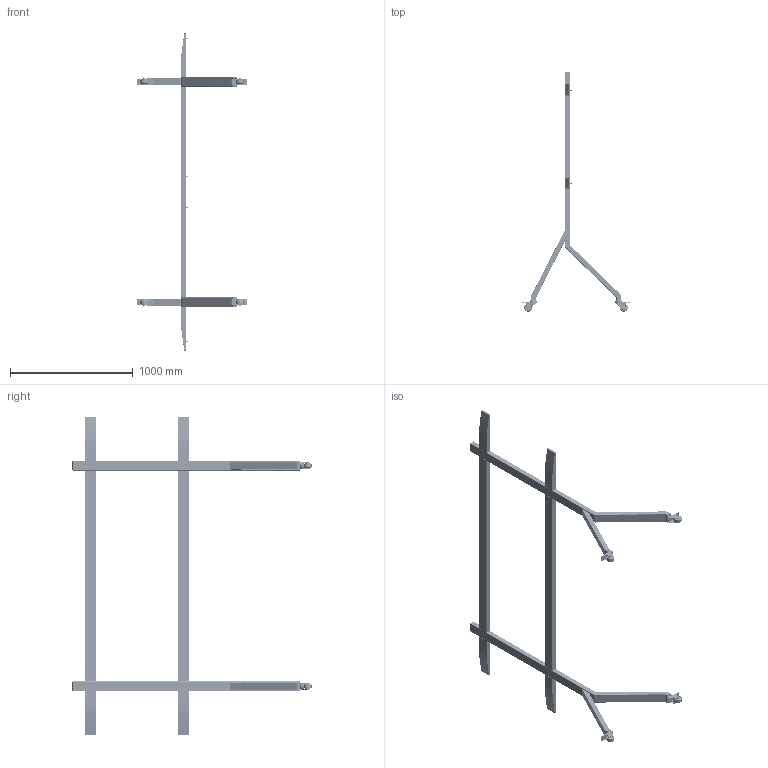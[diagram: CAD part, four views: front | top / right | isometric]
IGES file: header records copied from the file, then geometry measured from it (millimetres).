
Start section: SolidWorks IGES file using analytic representation for surfaces
Global section: file name: C:\Users\cjensen\OneDrive - Planar Systems\Desktop\AIO 122\Product Drawings\URL122 Stand.IGS; native system: SolidWorks 2024; preprocessor: SolidWorks 2024; author: cjensen; date: 240619.161552; units: millimetre
Bounding box: 901.16 x 1951.06 x 2603 mm (x, y, z)
Surface area: 4855412.9 mm2 (no closed solid volume)
Topology: 0 solids, 0 shells, 3136 faces, 48926 edges, 48912 vertices
Faces by surface type: bspline 1720, revolution 1416
